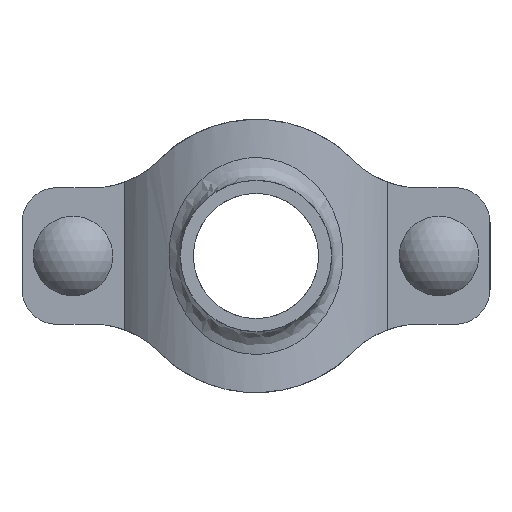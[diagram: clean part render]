
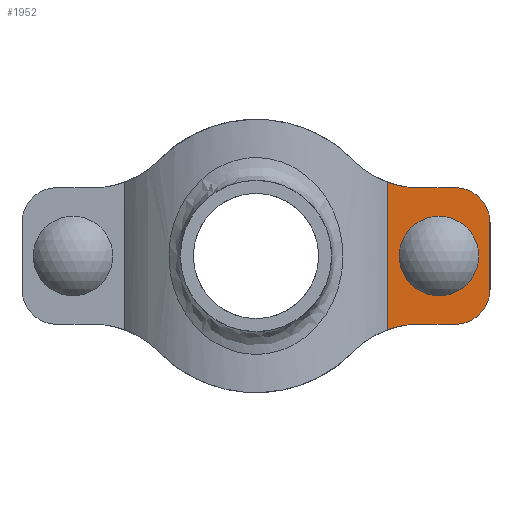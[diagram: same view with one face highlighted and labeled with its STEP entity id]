
A CAD part, front view. The second image highlights one B-rep face of the part: STEP entity #1952.
In plain terms, the highlighted planar face has unit normal (0, -1, 0) as drawn and (0, 1, 0) by its records, which use the part's own axes.
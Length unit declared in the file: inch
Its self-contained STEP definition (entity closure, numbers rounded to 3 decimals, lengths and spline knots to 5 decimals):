
#127=FACE_BOUND('',#345,.T.);
#218=FACE_OUTER_BOUND('',#344,.T.);
#344=EDGE_LOOP('',(#1623,#1624,#1625,#1626,#1627,#1628,#1629,#1630));
#345=EDGE_LOOP('',(#1631,#1632,#1633,#1634));
#457=LINE('',#3773,#603);
#468=LINE('',#3842,#614);
#472=LINE('',#3853,#618);
#490=LINE('',#4110,#636);
#491=LINE('',#4114,#637);
#492=LINE('',#4117,#638);
#603=VECTOR('',#2567,0.3937);
#614=VECTOR('',#2602,0.3937);
#618=VECTOR('',#2614,0.3937);
#636=VECTOR('',#2696,0.3937);
#637=VECTOR('',#2699,0.3937);
#638=VECTOR('',#2702,0.3937);
#712=CIRCLE('',#2162,0.2875);
#714=CIRCLE('',#2166,0.2875);
#733=CIRCLE('',#2199,1.);
#734=CIRCLE('',#2200,1.);
#735=CIRCLE('',#2201,0.38);
#736=CIRCLE('',#2202,0.38);
#858=VERTEX_POINT('',#3761);
#859=VERTEX_POINT('',#3772);
#869=VERTEX_POINT('',#3832);
#870=VERTEX_POINT('',#3833);
#873=VERTEX_POINT('',#3841);
#875=VERTEX_POINT('',#3847);
#907=VERTEX_POINT('',#4105);
#908=VERTEX_POINT('',#4107);
#909=VERTEX_POINT('',#4109);
#910=VERTEX_POINT('',#4111);
#911=VERTEX_POINT('',#4113);
#912=VERTEX_POINT('',#4115);
#1089=EDGE_CURVE('',#859,#858,#457,.T.);
#1104=EDGE_CURVE('',#869,#870,#712,.T.);
#1108=EDGE_CURVE('',#870,#873,#468,.T.);
#1111=EDGE_CURVE('',#873,#875,#714,.T.);
#1114=EDGE_CURVE('',#875,#869,#472,.T.);
#1156=EDGE_CURVE('',#859,#907,#733,.T.);
#1157=EDGE_CURVE('',#908,#858,#734,.T.);
#1158=EDGE_CURVE('',#909,#908,#490,.T.);
#1159=EDGE_CURVE('',#910,#909,#735,.T.);
#1160=EDGE_CURVE('',#911,#910,#491,.T.);
#1161=EDGE_CURVE('',#912,#911,#736,.T.);
#1162=EDGE_CURVE('',#907,#912,#492,.T.);
#1623=ORIENTED_EDGE('',*,*,#1156,.F.);
#1624=ORIENTED_EDGE('',*,*,#1089,.T.);
#1625=ORIENTED_EDGE('',*,*,#1157,.F.);
#1626=ORIENTED_EDGE('',*,*,#1158,.F.);
#1627=ORIENTED_EDGE('',*,*,#1159,.F.);
#1628=ORIENTED_EDGE('',*,*,#1160,.F.);
#1629=ORIENTED_EDGE('',*,*,#1161,.F.);
#1630=ORIENTED_EDGE('',*,*,#1162,.F.);
#1631=ORIENTED_EDGE('',*,*,#1111,.T.);
#1632=ORIENTED_EDGE('',*,*,#1114,.T.);
#1633=ORIENTED_EDGE('',*,*,#1104,.T.);
#1634=ORIENTED_EDGE('',*,*,#1108,.T.);
#1749=PLANE('',#2198);
#1952=ADVANCED_FACE('',(#218,#127),#1749,.F.);
#2162=AXIS2_PLACEMENT_3D('',#3834,#2594,#2595);
#2166=AXIS2_PLACEMENT_3D('',#3848,#2607,#2608);
#2198=AXIS2_PLACEMENT_3D('',#4104,#2690,#2691);
#2199=AXIS2_PLACEMENT_3D('',#4106,#2692,#2693);
#2200=AXIS2_PLACEMENT_3D('',#4108,#2694,#2695);
#2201=AXIS2_PLACEMENT_3D('',#4112,#2697,#2698);
#2202=AXIS2_PLACEMENT_3D('',#4116,#2700,#2701);
#2567=DIRECTION('',(0.,0.,-1.));
#2594=DIRECTION('center_axis',(0.,-1.,0.));
#2595=DIRECTION('ref_axis',(-1.,0.,0.));
#2602=DIRECTION('',(0.,0.,-1.));
#2607=DIRECTION('center_axis',(0.,-1.,0.));
#2608=DIRECTION('ref_axis',(1.,0.,0.));
#2614=DIRECTION('',(0.,0.,1.));
#2690=DIRECTION('center_axis',(0.,-1.,0.));
#2691=DIRECTION('ref_axis',(1.,0.,0.));
#2692=DIRECTION('center_axis',(0.,1.,0.));
#2693=DIRECTION('ref_axis',(-0.714,0.,0.7));
#2694=DIRECTION('center_axis',(0.,1.,0.));
#2695=DIRECTION('ref_axis',(0.,0.,-1.));
#2696=DIRECTION('',(1.,0.,0.));
#2697=DIRECTION('center_axis',(0.,-1.,0.));
#2698=DIRECTION('ref_axis',(0.,0.,-1.));
#2699=DIRECTION('',(0.,0.,-1.));
#2700=DIRECTION('center_axis',(0.,-1.,0.));
#2701=DIRECTION('ref_axis',(-1.,0.,0.));
#2702=DIRECTION('',(-1.,0.,0.));
#3761=CARTESIAN_POINT('',(-1.44416,1.25,-0.81001));
#3772=CARTESIAN_POINT('',(-1.44416,1.25,0.81001));
#3773=CARTESIAN_POINT('',(-1.44416,1.25,0.));
#3832=CARTESIAN_POINT('',(-1.7225,1.25,0.0925));
#3833=CARTESIAN_POINT('',(-2.2975,1.25,0.0925));
#3834=CARTESIAN_POINT('Origin',(-2.01,1.25,0.0925));
#3841=CARTESIAN_POINT('',(-2.2975,1.25,-0.0925));
#3842=CARTESIAN_POINT('',(-2.2975,1.25,-0.04625));
#3847=CARTESIAN_POINT('',(-1.7225,1.25,-0.0925));
#3848=CARTESIAN_POINT('Origin',(-2.01,1.25,-0.0925));
#3853=CARTESIAN_POINT('',(-1.7225,1.25,0.04625));
#4104=CARTESIAN_POINT('Origin',(-2.57,1.25,0.));
#4105=CARTESIAN_POINT('',(-1.78536,1.25,0.75));
#4106=CARTESIAN_POINT('Origin',(-1.78536,1.25,1.75));
#4107=CARTESIAN_POINT('',(-1.78536,1.25,-0.75));
#4108=CARTESIAN_POINT('Origin',(-1.78536,1.25,-1.75));
#4109=CARTESIAN_POINT('',(-2.19,1.25,-0.75));
#4110=CARTESIAN_POINT('',(-2.17768,1.25,-0.75));
#4111=CARTESIAN_POINT('',(-2.57,1.25,-0.37));
#4112=CARTESIAN_POINT('Origin',(-2.19,1.25,-0.37));
#4113=CARTESIAN_POINT('',(-2.57,1.25,0.37));
#4114=CARTESIAN_POINT('',(-2.57,1.25,-0.185));
#4115=CARTESIAN_POINT('',(-2.19,1.25,0.75));
#4116=CARTESIAN_POINT('Origin',(-2.19,1.25,0.37));
#4117=CARTESIAN_POINT('',(-2.38,1.25,0.75));
